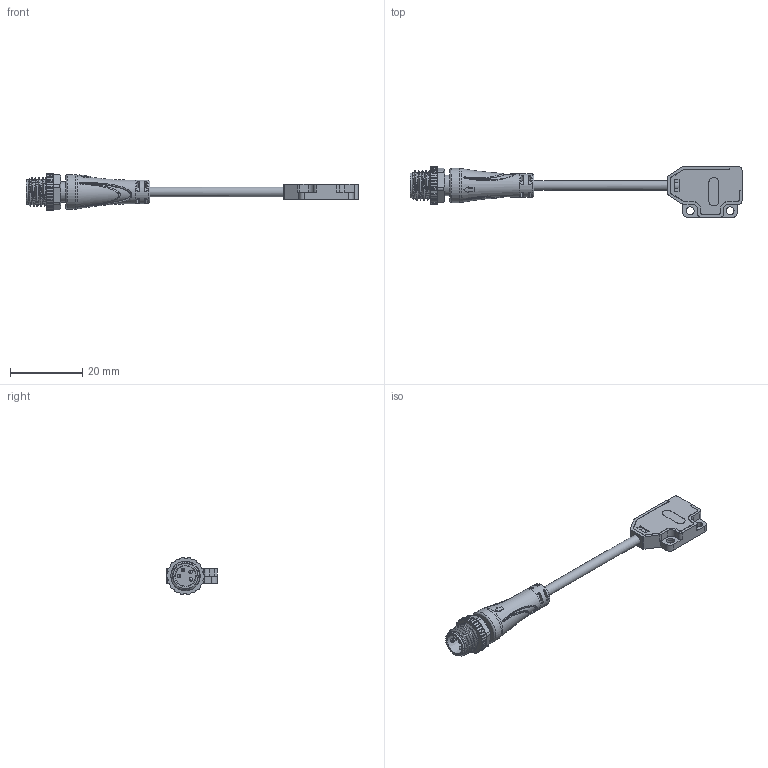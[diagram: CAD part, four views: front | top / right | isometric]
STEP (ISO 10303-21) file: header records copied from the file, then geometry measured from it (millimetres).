
FILE_DESCRIPTION(/* description */ (''),/* implementation_level */ '2;1');
FILE_NAME(/* name */ '3DCAD_HT20_X_M8_FL.stp',/* time_stamp */ '2026-06-01T14:10:57+02:00',/* author */ ('CC2'),/* organization */ ('Leuze electronic'),/* preprocessor_version */ 'ST-DEVELOPER v19.4',/* originating_system */ 'SIEMENS PLM Software NX2306.1700',/* authorisation */ '');
FILE_SCHEMA (('AUTOMOTIVE_DESIGN { 1 0 10303 214 3 1 1 1 }'));
Length unit declared in the file: millimetre
Products named in the file (1): 19-104028_00_1-3DCAD_HT20_X_M8_FL
Bounding box: 91.75 x 14 x 10.34 mm (x, y, z)
Volume: 2672.8 mm3; surface area: 3082.7 mm2
Topology: 1 solids, 12 shells, 652 faces, 1835 edges, 1203 vertices
Faces by surface type: plane 248, cylinder 161, bspline 128, cone 76, torus 21, sphere 8, extrusion 6, revolution 4
Full cylindrical faces by diameter (mm): 2.2 x2, 2.5 x2, 2.6 x2, 2.65 x1, 2.7 x3, 2.95 x1, 5.7 x1, 5.8 x1, 6.3 x1, 6.5 x1, 6.6 x1, 6.9 x1, 9.5 x1
Entity records: 33064 total; most frequent: CARTESIAN_POINT 13276, ORIENTED_EDGE 3508, DIRECTION 2679, EDGE_CURVE 1754, VERTEX_POINT 1164, AXIS2_PLACEMENT_3D 998, EDGE_LOOP 724, VECTOR 679
